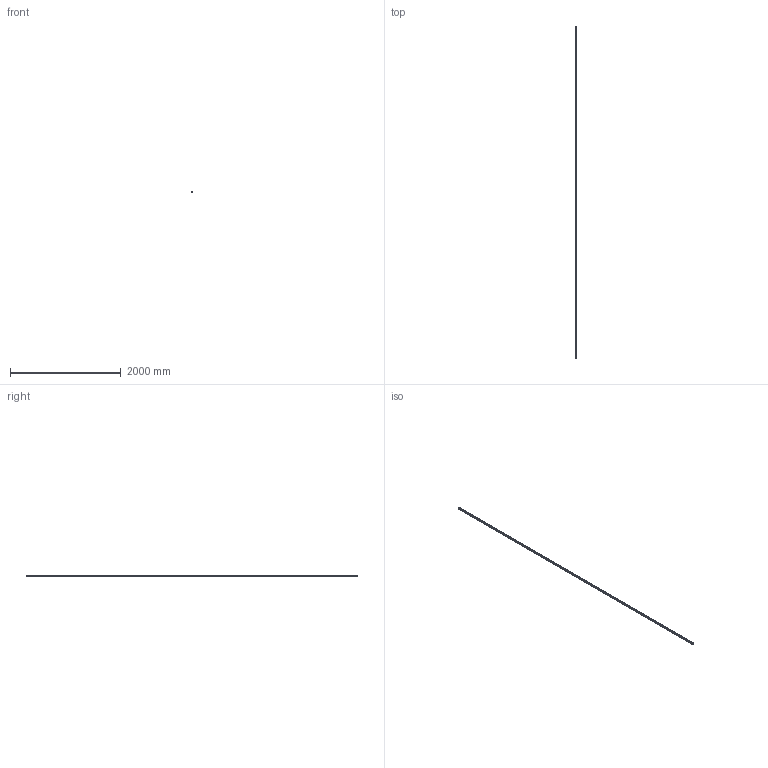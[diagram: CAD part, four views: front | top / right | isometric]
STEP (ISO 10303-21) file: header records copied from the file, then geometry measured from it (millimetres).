
FILE_DESCRIPTION(/* description */ ('Bodenfuehrungsschiene Nr.19'),/* implementation_level */ '2;1');
FILE_NAME(/* name */ 'Q:\sge-ma\Produktmanagement-STB\STB\Workspace\TraceParts\Bodenführungsschiene, feuerverzinkt\010337123.stp',/* time_stamp */ '2018-03-07T11:18:08+01:00',/* author */ ('avschreier'),/* organization */ (''),/* preprocessor_version */ 'ST-DEVELOPER v16.1',/* originating_system */ 'Autodesk Inventor 2016',/* authorisation */ '');
FILE_SCHEMA (('CONFIG_CONTROL_DESIGN'));
Length unit declared in the file: millimetre
Products named in the file (1): 010337123
Bounding box: 25 x 6000 x 26.5 mm (x, y, z)
Volume: 831240.2 mm3; surface area: 855798.3 mm2
Topology: 1 solids, 1 shells, 94 faces, 188 edges, 108 vertices
Faces by surface type: plane 30, torus 24, cone 24, cylinder 16
Full cylindrical faces by diameter (mm): 6 x12
Entity records: 2180 total; most frequent: DIRECTION 410, CARTESIAN_POINT 331, ORIENTED_EDGE 256, EDGE_LOOP 190, AXIS2_PLACEMENT_3D 187, EDGE_CURVE 128, VERTEX_POINT 108, FACE_BOUND 96
